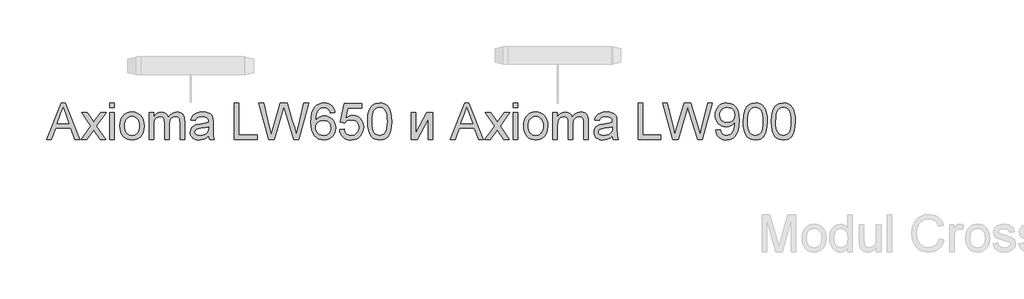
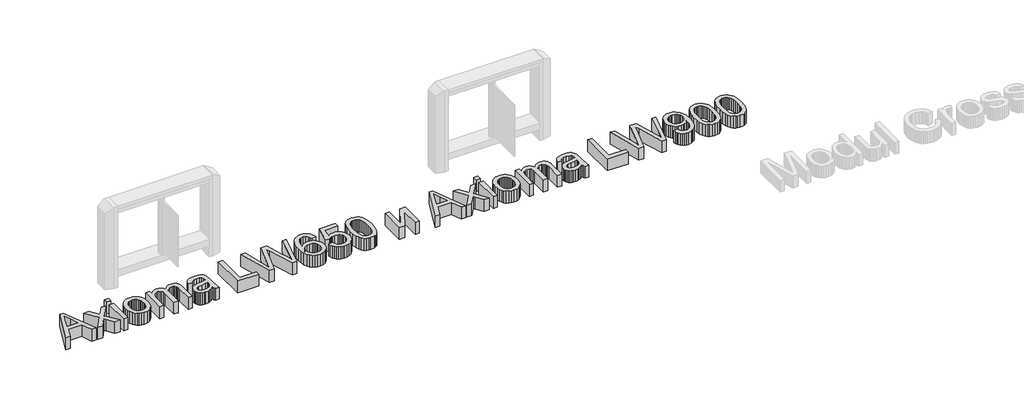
# One storey, part 3 of 6: 1 proxy.
"""IFC4 building model written with IfcOpenShell, lengths in millimetres."""

from ifc_helpers import new_model, si_unit, origin, origin_with_axes, place, context, project, spatial, polyline, outline, extrude, element, save

model = new_model("IFC4")

# Units and contexts
model_context = context("Model", 3, world=origin())
ifc_project = project(units=[si_unit("LENGTHUNIT", "METRE", prefix="MILLI")], contexts=[model_context])

# Site, building, storey
site = spatial("IfcSite", under=ifc_project)
building = spatial("IfcBuilding", under=site)
storey = spatial("IfcBuildingStorey", under=building, Name="Уровень 1", Elevation=0.0)

# Proxy
placement = place(None, origin())
element("IfcBuildingElementProxy", 1, Name="600 мм Arial", ObjectType="600 мм Arial", at=placement, inside=storey, context=model_context, shape_type="SweptSolid", body=[
    extrude(outline(polyline([(-5568.192916, 118.8273835), (-5407.7963661, 520.6526241), (-5365.0239528, 520.6526241), (-5204.6274029, 118.8273835), (-5257.7005121, 118.8273835), (-5303.710287, 244.3977712), (-5469.2081339, 244.3977712), (-5515.1198069, 118.8273835), (-5568.192916, 118.8273835)]), holes=[polyline([(-5450.7649832, 294.6259263), (-5322.0553358, 294.6259263), (-5358.2549241, 393.4145047), (-5386.4101595, 470.4244691), (-5411.4261352, 402.0474689), (-5450.7649832, 294.6259263)])]), origin_with_axes(), (0.0, 0.0, 1.0), 150.0),
    extrude(outline(polyline([(-5188.6367989, 118.8273835), (-5081.3133582, 267.157404), (-5182.3582795, 413.9177946), (-5121.9275304, 413.9177946), (-5073.1709033, 343.2844515), (-5050.4112706, 309.9298173), (-5030.6927956, 337.2021359), (-4975.1671398, 413.9177946), (-4914.7363907, 413.9177946), (-5020.8826091, 267.157404), (-4918.6604654, 118.8273835), (-4979.0912144, 118.8273835), (-5040.601084, 208.0019792), (-5051.8827985, 224.2868888), (-5128.2060498, 118.8273835), (-5188.6367989, 118.8273835)])), origin_with_axes(), (0.0, 0.0, 1.0), 150.0),
    extrude(outline(polyline([(-4874.7108297, 470.4244691), (-4874.7108297, 520.6526241), (-4824.4826746, 520.6526241), (-4824.4826746, 470.4244691), (-4874.7108297, 470.4244691)])), origin_with_axes(), (0.0, 0.0, 1.0), 150.0),
    extrude(outline(polyline([(-4874.7108297, 118.8273835), (-4874.7108297, 413.9177946), (-4824.4826746, 413.9177946), (-4824.4826746, 118.8273835), (-4874.7108297, 118.8273835)])), origin_with_axes(), (0.0, 0.0, 1.0), 150.0),
    extrude(outline(polyline([(-4761.6974807, 266.3725891), (-4758.9812853, 304.589397), (-4750.8326992, 337.5209669), (-4737.2517222, 365.1672989), (-4718.2383544, 387.5283928), (-4699.0962279, 401.8206083), (-4677.9675386, 412.0293337), (-4654.8522866, 418.1545689), (-4629.7504718, 420.196314), (-4602.0397605, 417.7100448), (-4576.983931, 410.2512374), (-4554.5829831, 397.8198916), (-4534.8369171, 380.4160076), (-4518.72062, 358.6281964), (-4507.2089792, 333.0450693), (-4500.3019948, 303.6666263), (-4497.9996666, 270.4928674), (-4502.070894, 219.7496775), (-4514.2845763, 181.122068), (-4534.2850941, 152.1942805), (-4561.7168282, 130.5505564), (-4594.2989102, 117.0492872), (-4629.7504718, 112.5488641), (-4657.8658533, 115.0259362), (-4683.1546748, 122.4571525), (-4705.6169363, 134.8425131), (-4725.2526378, 152.1820178), (-4741.1972566, 174.1813611), (-4752.58627, 200.5462374), (-4759.4196781, 231.2766467), (-4761.6974807, 266.3725891)]), holes=[polyline([(-4711.4693257, 266.4706909), (-4710.0161918, 242.1077058), (-4705.6567901, 221.0127391), (-4698.3911207, 203.1857907), (-4688.2191836, 188.6268607), (-4675.8460858, 177.3175551), (-4661.9769346, 169.2394796), (-4646.6117299, 164.3926343), (-4629.7504718, 162.7770192), (-4612.9750528, 164.4018314), (-4597.6711618, 169.2762678), (-4583.8387988, 177.4003285), (-4571.4779638, 188.7740135), (-4561.3060266, 203.4770306), (-4554.0403572, 221.5890875), (-4549.6809556, 243.1101842), (-4548.2278217, 268.0403208), (-4549.6901526, 291.6307537), (-4554.0771454, 312.1738975), (-4561.3888001, 329.669752), (-4571.6251166, 344.1183174), (-4584.0319369, 355.427623), (-4597.8551028, 363.5056985), (-4613.0946145, 368.3525438), (-4629.7504718, 369.9681589), (-4646.6117299, 368.3586752), (-4661.9769346, 363.530224), (-4675.8460858, 355.4828053), (-4688.2191836, 344.2164192), (-4698.3911207, 329.7004088), (-4705.6567901, 311.9041173), (-4710.0161918, 290.8275447), (-4711.4693257, 266.4706909)])]), origin_with_axes(), (0.0, 0.0, 1.0), 150.0),
    extrude(outline(polyline([(-4441.4929921, 118.8273835), (-4441.4929921, 413.9177946), (-4391.2648371, 413.9177946), (-4391.2648371, 365.3573712), (-4376.1571498, 387.6632829), (-4356.7329805, 405.1376776), (-4333.6545166, 416.4316549), (-4307.5839459, 420.196314), (-4279.6494397, 416.3580785), (-4257.257689, 404.843372), (-4240.5313209, 386.4124841), (-4229.5929629, 361.8257041), (-4211.2847023, 387.3628459), (-4190.4012677, 405.6036615), (-4166.9426591, 416.5481509), (-4140.9088766, 420.196314), (-4120.8010599, 418.6788007), (-4103.1519212, 414.1262611), (-4087.9614605, 406.5386949), (-4075.2296777, 395.9161023), (-4065.1650395, 382.1358559), (-4057.9760122, 365.0753284), (-4053.6625958, 344.7345197), (-4052.2247903, 321.1134299), (-4052.2247903, 118.8273835), (-4102.4529454, 118.8273835), (-4102.4529454, 299.5310196), (-4103.617905, 324.5837834), (-4107.112784, 341.469567), (-4113.6610835, 353.0333244), (-4123.9863048, 362.1200097), (-4137.2668449, 368.0061216), (-4152.6811005, 369.9681589), (-4179.8921054, 364.9404383), (-4202.0753897, 349.8572765), (-4210.6807627, 338.2873878), (-4216.8274577, 323.6886039), (-4221.7448137, 285.4043509), (-4221.7448137, 118.8273835), (-4271.9729688, 118.8273835), (-4271.9729688, 305.1228259), (-4274.8792365, 333.5233159), (-4283.5980398, 353.7813511), (-4298.938719, 365.921457), (-4321.7106145, 369.9681589), (-4341.0612075, 367.2703576), (-4358.8912215, 359.1769537), (-4373.6065013, 345.884151), (-4383.6128916, 327.5881531), (-4389.3518507, 302.2042954), (-4391.2648371, 267.6479133), (-4391.2648371, 118.8273835), (-4441.4929921, 118.8273835)])), origin_with_axes(), (0.0, 0.0, 1.0), 150.0),
    extrude(outline(polyline([(-3788.5269762, 156.4984998), (-3812.525145, 135.9216336), (-3837.2345523, 122.4571525), (-3863.2192839, 115.0259362), (-3891.0434255, 112.5488641), (-3913.4075851, 114.0387862), (-3933.0187611, 118.5085525), (-3949.8769536, 125.9581629), (-3963.9821624, 136.3876174), (-3975.1197898, 149.1347286), (-3983.075238, 163.5373087), (-3987.8485068, 179.5953578), (-3989.4395965, 197.3088758), (-3987.0361008, 218.1309968), (-3979.8256137, 237.0401313), (-3968.7033147, 253.2269391), (-3954.5643833, 265.8820797), (-3937.9483799, 275.4470116), (-3919.3948646, 282.3631931), (-3875.9357382, 289.9170368), (-3824.5794117, 297.8632878), (-3788.8212818, 307.1829651), (-3788.5269762, 318.3665777), (-3791.9850669, 340.782854), (-3802.3593392, 355.4490828), (-3825.5604304, 366.3383899), (-3857.884995, 369.9681589), (-3887.8060639, 367.5524005), (-3908.7017613, 360.3051252), (-3922.9510572, 346.9019578), (-3932.932922, 326.0185232), (-3983.1610771, 332.2970426), (-3974.4422738, 359.7655649), (-3961.4315139, 381.3479753), (-3942.9147868, 397.8536141), (-3917.6780819, 410.0918218), (-3886.8127825, 417.6701909), (-3851.4102719, 420.196314), (-3817.4547637, 417.9644965), (-3790.5380644, 411.2690442), (-3770.243241, 401.2013403), (-3756.1533606, 388.852768), (-3746.8091579, 373.5856652), (-3740.7513677, 354.7623698), (-3738.2988211, 310.8127341), (-3738.2988211, 248.3218458), (-3735.7481726, 161.0602366), (-3725.7417823, 118.8273835), (-3775.9699374, 118.8273835), (-3784.0142904, 136.2895156), (-3788.5269762, 156.4984998)]), holes=[polyline([(-3788.5269762, 256.95481), (-3822.2740179, 248.591626), (-3869.559117, 241.5528171), (-3912.7729887, 233.4103623), (-3924.017915, 227.8430814), (-3932.3443108, 220.1666105), (-3937.4946587, 210.9695606), (-3939.2114414, 200.840543), (-3935.4713078, 185.904534), (-3924.2509069, 173.6663263), (-3905.7954935, 165.499346), (-3880.3503222, 162.7770192), (-3853.3723092, 165.7813888), (-3829.5335559, 174.7944977), (-3810.2074884, 188.0750378), (-3796.7675329, 203.8817008), (-3790.8078445, 220.1666105), (-3788.8212818, 242.7300395), (-3788.5269762, 256.95481)])]), origin_with_axes(), (0.0, 0.0, 1.0), 150.0),
    extrude(outline(polyline([(-3505.9936039, 118.8273835), (-3505.9936039, 520.6526241), (-3455.7654488, 520.6526241), (-3455.7654488, 169.0555386), (-3254.8528285, 169.0555386), (-3254.8528285, 118.8273835), (-3505.9936039, 118.8273835)])), origin_with_axes(), (0.0, 0.0, 1.0), 150.0),
    extrude(outline(polyline([(-3126.4374867, 118.8273835), (-3236.0172703, 520.6526241), (-3184.2194854, 520.6526241), (-3120.6494767, 256.5624025), (-3101.0291036, 175.0397524), (-3080.0353044, 247.1446234), (-3000.3765897, 520.6526241), (-2925.7210701, 520.6526241), (-2867.8409696, 322.3887542), (-2843.0457231, 248.8123552), (-2824.7742507, 175.0397524), (-2805.7424888, 254.2079578), (-2741.5838688, 520.6526241), (-2689.7860839, 520.6526241), (-2799.4639694, 118.8273835), (-2853.1256898, 118.8273835), (-2949.4617216, 428.8292781), (-2962.9016771, 472.0922008), (-2978.0093644, 420.0001102), (-3065.8105339, 118.8273835), (-3126.4374867, 118.8273835)])), origin_with_axes(), (0.0, 0.0, 1.0), 150.0),
    extrude(outline(polyline([(-2400.9741922, 413.9177946), (-2451.2023473, 407.6392752), (-2459.2957512, 432.5326235), (-2470.2341092, 449.5287717), (-2493.0182674, 465.2005447), (-2520.5603661, 470.4244691), (-2543.9086101, 467.3833112), (-2565.8834279, 458.2598377), (-2584.7557743, 439.0441349), (-2600.1700299, 412.5934194), (-2610.5810903, 375.1798205), (-2614.4438513, 323.0754673), (-2594.2961807, 346.5831267), (-2570.1508591, 363.1500793), (-2543.3567871, 372.9725285), (-2515.2628654, 376.2466783), (-2491.1298065, 374.0087295), (-2468.8606831, 367.2948831), (-2448.4554951, 356.1051391), (-2429.9142425, 340.4394974), (-2414.5061183, 321.2299259), (-2403.5003153, 299.4083922), (-2396.8968334, 274.9748964), (-2394.6956728, 247.9294384), (-2398.8404767, 211.962842), (-2411.2748881, 178.6204705), (-2430.9688376, 150.3426078), (-2456.8922555, 129.5695378), (-2487.8679195, 116.8040326), (-2522.7186072, 112.5488641), (-2552.6611359, 115.3692928), (-2579.7035282, 123.8305787), (-2603.8457842, 137.9327218), (-2625.0879037, 157.6757222), (-2642.4059486, 183.8934457), (-2654.7759807, 217.4197582), (-2662.198, 258.2546597), (-2664.6720064, 306.3981501), (-2661.9251541, 360.3725702), (-2653.6845974, 406.4375274), (-2639.9503363, 444.5930216), (-2620.7223707, 474.839053), (-2599.8818557, 494.8824904), (-2575.7181399, 509.1992313), (-2548.2312235, 517.7892759), (-2517.4211064, 520.6526241), (-2494.2874603, 518.8806592), (-2473.3488434, 513.5647644), (-2454.6052558, 504.7049396), (-2438.0566973, 492.301185), (-2424.1507579, 476.7704335), (-2413.3350273, 458.5296179), (-2405.6095054, 437.5787383), (-2400.9741922, 413.9177946)]), holes=[polyline([(-2614.4438513, 248.7142533), (-2611.5375835, 226.4573926), (-2602.8187802, 205.206076), (-2589.2807228, 186.9346036), (-2571.9166927, 173.6172753), (-2550.9596817, 165.4870833), (-2526.6426818, 162.7770192), (-2493.496514, 168.393351), (-2479.5813775, 175.4137658), (-2467.438206, 185.2423464), (-2457.5881656, 197.4805541), (-2450.5524224, 211.72985), (-2444.9238279, 246.2617067), (-2450.478846, 279.4078744), (-2457.4226187, 293.0287053), (-2467.1439004, 304.6813675), (-2479.3238602, 314.0163731), (-2493.6436668, 320.6842343), (-2528.702821, 326.0185232), (-2561.7999378, 320.6842343), (-2589.4769266, 304.6813675), (-2600.3999561, 293.1819895), (-2608.2021201, 280.0210111), (-2612.8834185, 265.1984324), (-2614.4438513, 248.7142533)])]), origin_with_axes(), (0.0, 0.0, 1.0), 150.0),
    extrude(outline(polyline([(-2350.7460372, 225.5622131), (-2300.5178821, 231.8407324), (-2291.2963067, 201.6866716), (-2275.2076008, 180.0919985), (-2252.3253407, 167.105764), (-2222.7231028, 162.7770192), (-2203.5932391, 164.2822697), (-2186.7197182, 168.7980212), (-2172.1025403, 176.3242737), (-2159.7417053, 186.8610272), (-2149.9131246, 199.8871155), (-2142.8927099, 214.8813725), (-2137.2763781, 250.7743925), (-2142.5370906, 284.5704851), (-2149.1129813, 298.4886872), (-2158.3192282, 310.4203266), (-2170.1864882, 319.9913899), (-2184.7454182, 326.8278636), (-2221.9382879, 332.2970426), (-2246.3043387, 330.1142761), (-2266.0350764, 323.5659766), (-2281.7926885, 313.5350608), (-2294.2393627, 300.9044457), (-2344.4675178, 307.1829651), (-2300.5178821, 514.3741047), (-2105.8837812, 514.3741047), (-2105.8837812, 464.1459497), (-2259.9037098, 464.1459497), (-2281.3880183, 353.4870455), (-2263.6622375, 366.1912371), (-2245.5072611, 375.2656596), (-2226.9230889, 380.7103132), (-2207.9097212, 382.5251977), (-2183.4486342, 380.2749861), (-2160.9802413, 373.5243515), (-2140.5045426, 362.2732938), (-2122.021538, 346.5218131), (-2106.7207127, 327.2325338), (-2095.7915518, 305.3680806), (-2089.2340552, 280.9284533), (-2087.048223, 253.9136522), (-2089.0163917, 227.8921324), (-2094.9208977, 203.6854971), (-2104.7617411, 181.2937463), (-2118.5389218, 160.71688), (-2139.4100937, 139.6433731), (-2163.7638817, 124.5908681), (-2191.600286, 115.5593651), (-2222.9193066, 112.5488641), (-2248.8396588, 114.4833103), (-2272.2522821, 120.2866488), (-2293.1571765, 129.9588796), (-2311.5543419, 143.5000027), (-2326.8612986, 160.2355678), (-2338.4955667, 179.4911245), (-2346.4571462, 201.266673), (-2350.7460372, 225.5622131)])), origin_with_axes(), (0.0, 0.0, 1.0), 150.0),
    extrude(outline(polyline([(-2043.0985873, 316.5026423), (-2039.4075046, 380.8206778), (-2028.3342566, 432.1156906), (-2009.9892078, 471.1724958), (-1998.1311448, 486.4058761), (-1984.4827228, 498.7759081), (-1968.9979564, 508.3469714), (-1951.6308606, 515.1834451), (-1911.2496802, 520.6526241), (-1880.2985417, 517.4152626), (-1852.5847648, 507.7031779), (-1829.4081991, 491.8965148), (-1812.0686943, 470.3754181), (-1798.9720953, 443.3238287), (-1788.5242467, 410.9256877), (-1781.6816415, 369.7842179), (-1779.4007732, 316.5026423), (-1783.0550677, 252.5524888), (-1794.0179511, 201.3801032), (-1812.2526353, 162.2865099), (-1824.0831072, 147.0071444), (-1837.7223321, 134.5727329), (-1853.2254926, 124.9372903), (-1870.6477707, 118.0548313), (-1911.2496802, 112.5488641), (-1938.9144063, 114.9400971), (-1963.4398726, 122.113796), (-1984.8260793, 134.0699609), (-2003.0730262, 150.8085916), (-2020.5842092, 181.0668857), (-2033.0921971, 218.7686589), (-2040.5969898, 263.9139111), (-2043.0985873, 316.5026423)]), holes=[polyline([(-1992.8704322, 316.6007441), (-1991.3989043, 272.936217), (-1986.9843203, 237.5919543), (-1979.6266804, 210.5679561), (-1969.3259846, 191.8642223), (-1956.8670477, 179.138571), (-1943.0346846, 170.04882), (-1927.8288955, 164.5949694), (-1911.2496802, 162.7770192), (-1894.670465, 164.6011008), (-1879.4646759, 170.0733455), (-1865.6323128, 179.1937533), (-1853.1733759, 191.9623242), (-1842.8726801, 210.6967148), (-1835.5150402, 237.7145816), (-1831.1004562, 273.0159248), (-1829.6289283, 316.6007441), (-1831.0514053, 359.1095087), (-1835.3188364, 393.8314377), (-1842.4312217, 420.7665311), (-1852.388561, 439.9147889), (-1864.6390315, 453.262774), (-1878.63081, 462.797049), (-1894.3638967, 468.517614), (-1911.8382914, 470.4244691), (-1928.3316676, 468.7444746), (-1943.2799393, 463.7044913), (-1956.6831067, 455.3045191), (-1968.5411696, 443.5445579), (-1979.185222, 422.6979115), (-1986.7881166, 394.5917271), (-1991.3498533, 359.2260046), (-1992.8704322, 316.6007441)])]), origin_with_axes(), (0.0, 0.0, 1.0), 150.0),
    extrude(outline(polyline([(-1565.9311141, 413.9177946), (-1515.702959, 413.9177946), (-1515.702959, 188.8721154), (-1392.2908124, 413.9177946), (-1327.3473775, 413.9177946), (-1327.3473775, 118.8273835), (-1377.5755326, 118.8273835), (-1377.5755326, 342.4996366), (-1500.2028643, 118.8273835), (-1565.9311141, 118.8273835), (-1565.9311141, 413.9177946)])), origin_with_axes(), (0.0, 0.0, 1.0), 150.0),
    extrude(outline(polyline([(-1135.5582307, 118.8273835), (-975.1616808, 520.6526241), (-932.3892675, 520.6526241), (-771.9927176, 118.8273835), (-825.0658268, 118.8273835), (-871.0756016, 244.3977712), (-1036.5734485, 244.3977712), (-1082.4851215, 118.8273835), (-1135.5582307, 118.8273835)]), holes=[polyline([(-1018.1302978, 294.6259263), (-889.4206504, 294.6259263), (-925.6202388, 393.4145047), (-953.7754741, 470.4244691), (-978.7914498, 402.0474689), (-1018.1302978, 294.6259263)])]), origin_with_axes(), (0.0, 0.0, 1.0), 150.0),
    extrude(outline(polyline([(-756.0021135, 118.8273835), (-648.6786728, 267.157404), (-749.7235941, 413.9177946), (-689.2928451, 413.9177946), (-640.536218, 343.2844515), (-617.7765852, 309.9298173), (-598.0581103, 337.2021359), (-542.5324545, 413.9177946), (-482.1017054, 413.9177946), (-588.2479237, 267.157404), (-486.02578, 118.8273835), (-546.4565291, 118.8273835), (-607.9663987, 208.0019792), (-619.2481132, 224.2868888), (-695.5713645, 118.8273835), (-756.0021135, 118.8273835)])), origin_with_axes(), (0.0, 0.0, 1.0), 150.0),
    extrude(outline(polyline([(-442.0761443, 470.4244691), (-442.0761443, 520.6526241), (-391.8479892, 520.6526241), (-391.8479892, 470.4244691), (-442.0761443, 470.4244691)])), origin_with_axes(), (0.0, 0.0, 1.0), 150.0),
    extrude(outline(polyline([(-442.0761443, 118.8273835), (-442.0761443, 413.9177946), (-391.8479892, 413.9177946), (-391.8479892, 118.8273835), (-442.0761443, 118.8273835)])), origin_with_axes(), (0.0, 0.0, 1.0), 150.0),
    extrude(outline(polyline([(-329.0627954, 266.3725891), (-326.3466, 304.589397), (-318.1980138, 337.5209669), (-304.6170368, 365.1672989), (-285.603669, 387.5283928), (-266.4615425, 401.8206083), (-245.3328533, 412.0293337), (-222.2176013, 418.1545689), (-197.1157865, 420.196314), (-169.4050752, 417.7100448), (-144.3492456, 410.2512374), (-121.9482978, 397.8198916), (-102.2022317, 380.4160076), (-86.0859346, 358.6281964), (-74.5742939, 333.0450693), (-67.6673094, 303.6666263), (-65.3649812, 270.4928674), (-69.4362087, 219.7496775), (-81.6498909, 181.122068), (-101.6504087, 152.1942805), (-129.0821428, 130.5505564), (-161.6642249, 117.0492872), (-197.1157865, 112.5488641), (-225.2311679, 115.0259362), (-250.5199894, 122.4571525), (-272.9822509, 134.8425131), (-292.6179524, 152.1820178), (-308.5625712, 174.1813611), (-319.9515846, 200.5462374), (-326.7849927, 231.2766467), (-329.0627954, 266.3725891)]), holes=[polyline([(-278.8346403, 266.4706909), (-277.3815064, 242.1077058), (-273.0221048, 221.0127391), (-265.7564354, 203.1857907), (-255.5844982, 188.6268607), (-243.2114005, 177.3175551), (-229.3422492, 169.2394796), (-213.9770446, 164.3926343), (-197.1157865, 162.7770192), (-180.3403675, 164.4018314), (-165.0364765, 169.2762678), (-151.2041135, 177.4003285), (-138.8432784, 188.7740135), (-128.6713413, 203.4770306), (-121.4056718, 221.5890875), (-117.0462702, 243.1101842), (-115.5931363, 268.0403208), (-117.0554673, 291.6307537), (-121.44246, 312.1738975), (-128.7541147, 329.669752), (-138.9904312, 344.1183174), (-151.3972515, 355.427623), (-165.2204175, 363.5056985), (-180.4599291, 368.3525438), (-197.1157865, 369.9681589), (-213.9770446, 368.3586752), (-229.3422492, 363.530224), (-243.2114005, 355.4828053), (-255.5844982, 344.2164192), (-265.7564354, 329.7004088), (-273.0221048, 311.9041173), (-277.3815064, 290.8275447), (-278.8346403, 266.4706909)])]), origin_with_axes(), (0.0, 0.0, 1.0), 150.0),
    extrude(outline(polyline([(-8.8583068, 118.8273835), (-8.8583068, 413.9177946), (41.3698483, 413.9177946), (41.3698483, 365.3573712), (56.4775356, 387.6632829), (75.9017049, 405.1376776), (98.9801687, 416.4316549), (125.0507395, 420.196314), (152.9852456, 416.3580785), (175.3769964, 404.843372), (192.1033644, 386.4124841), (203.0417224, 361.8257041), (221.3499831, 387.3628459), (242.2334177, 405.6036615), (265.6920262, 416.5481509), (291.7258087, 420.196314), (311.8336255, 418.6788007), (329.4827642, 414.1262611), (344.6732249, 406.5386949), (357.4050076, 395.9161023), (367.4696459, 382.1358559), (374.6586732, 365.0753284), (378.9720896, 344.7345197), (380.409895, 321.1134299), (380.409895, 118.8273835), (330.18174, 118.8273835), (330.18174, 299.5310196), (329.0167803, 324.5837834), (325.5219014, 341.469567), (318.9736018, 353.0333244), (308.6483805, 362.1200097), (295.3678405, 368.0061216), (279.9535849, 369.9681589), (252.74258, 364.9404383), (230.5592957, 349.8572765), (221.9539227, 338.2873878), (215.8072277, 323.6886039), (210.8898717, 285.4043509), (210.8898717, 118.8273835), (160.6617166, 118.8273835), (160.6617166, 305.1228259), (157.7554488, 333.5233159), (149.0366455, 353.7813511), (133.6959663, 365.921457), (110.9240708, 369.9681589), (91.5734779, 367.2703576), (73.7434639, 359.1769537), (59.0281841, 345.884151), (49.0217938, 327.5881531), (43.2828347, 302.2042954), (41.3698483, 267.6479133), (41.3698483, 118.8273835), (-8.8583068, 118.8273835)])), origin_with_axes(), (0.0, 0.0, 1.0), 150.0),
    extrude(outline(polyline([(644.1077092, 156.4984998), (620.1095404, 135.9216336), (595.400133, 122.4571525), (569.4154014, 115.0259362), (541.5912599, 112.5488641), (519.2271002, 114.0387862), (499.6159242, 118.5085525), (482.7577318, 125.9581629), (468.6525229, 136.3876174), (457.5148955, 149.1347286), (449.5594474, 163.5373087), (444.7861785, 179.5953578), (443.1950889, 197.3088758), (445.5985846, 218.1309968), (452.8090717, 237.0401313), (463.9313707, 253.2269391), (478.070302, 265.8820797), (494.6863055, 275.4470116), (513.2398208, 282.3631931), (556.6989471, 289.9170368), (608.0552737, 297.8632878), (643.8134036, 307.1829651), (644.1077092, 318.3665777), (640.6496184, 340.782854), (630.2753462, 355.4490828), (607.074255, 366.3383899), (574.7496904, 369.9681589), (544.8286214, 367.5524005), (523.9329241, 360.3051252), (509.6836281, 346.9019578), (499.7017633, 326.0185232), (449.4736083, 332.2970426), (458.1924116, 359.7655649), (471.2031714, 381.3479753), (489.7198985, 397.8536141), (514.9566034, 410.0918218), (545.8219028, 417.6701909), (581.2244135, 420.196314), (615.1799216, 417.9644965), (642.0966209, 411.2690442), (662.3914443, 401.2013403), (676.4813248, 388.852768), (685.8255274, 373.5856652), (691.8833176, 354.7623698), (694.3358643, 310.8127341), (694.3358643, 248.3218458), (696.8865128, 161.0602366), (706.892903, 118.8273835), (656.664748, 118.8273835), (648.620395, 136.2895156), (644.1077092, 156.4984998)]), holes=[polyline([(644.1077092, 256.95481), (610.3606675, 248.591626), (563.0755684, 241.5528171), (519.8616967, 233.4103623), (508.6167704, 227.8430814), (500.2903745, 220.1666105), (495.1400266, 210.9695606), (493.423244, 200.840543), (497.1633776, 185.904534), (508.3837784, 173.6663263), (526.8391919, 165.499346), (552.2843632, 162.7770192), (579.2623762, 165.7813888), (603.1011295, 174.7944977), (622.4271969, 188.0750378), (635.8671525, 203.8817008), (641.8268408, 220.1666105), (643.8134036, 242.7300395), (644.1077092, 256.95481)])]), origin_with_axes(), (0.0, 0.0, 1.0), 150.0),
    extrude(outline(polyline([(926.6410815, 118.8273835), (926.6410815, 520.6526241), (976.8692366, 520.6526241), (976.8692366, 169.0555386), (1177.7818569, 169.0555386), (1177.7818569, 118.8273835), (926.6410815, 118.8273835)])), origin_with_axes(), (0.0, 0.0, 1.0), 150.0),
    extrude(outline(polyline([(1306.1971986, 118.8273835), (1196.617415, 520.6526241), (1248.4151999, 520.6526241), (1311.9852087, 256.5624025), (1331.6055818, 175.0397524), (1352.599381, 247.1446234), (1432.2580956, 520.6526241), (1506.9136152, 520.6526241), (1564.7937158, 322.3887542), (1589.5889623, 248.8123552), (1607.8604347, 175.0397524), (1626.8921966, 254.2079578), (1691.0508165, 520.6526241), (1742.8486014, 520.6526241), (1633.1707159, 118.8273835), (1579.5089956, 118.8273835), (1483.1729638, 428.8292781), (1469.7330082, 472.0922008), (1454.625321, 420.0001102), (1366.8241514, 118.8273835), (1306.1971986, 118.8273835)])), origin_with_axes(), (0.0, 0.0, 1.0), 150.0),
    extrude(outline(polyline([(1780.5197177, 219.2836937), (1830.7478728, 225.5622131), (1839.331786, 197.0513584), (1853.3113019, 177.6394518), (1872.3430637, 166.4926274), (1896.0837152, 162.7770192), (1917.3840827, 165.1682522), (1936.7469384, 172.3419511), (1952.8356443, 183.513301), (1964.3135625, 197.897487), (1980.745625, 241.5528171), (1986.1902785, 269.9533071), (1988.005163, 299.8253252), (1987.7108574, 309.6355117), (1970.3100391, 288.3964578), (1947.5381436, 271.5719879), (1921.0383772, 260.6091045), (1892.4539461, 256.95481), (1868.5937331, 259.1866274), (1846.6526377, 265.8820797), (1826.6306602, 277.0411669), (1808.5278003, 292.663889), (1793.527412, 311.9347742), (1782.8128489, 334.0383507), (1776.384111, 358.9746186), (1774.2411984, 386.7435779), (1776.4883442, 415.4383735), (1783.2297818, 441.1901132), (1794.4655111, 463.9987969), (1810.195532, 483.8644246), (1829.3100674, 499.9592619), (1850.6993397, 511.4555742), (1874.363349, 518.3533617), (1900.3020954, 520.6526241), (1937.7647452, 515.4041743), (1971.8674062, 499.6588249), (2000.3905235, 474.2013909), (2021.1145426, 439.8166871), (2033.732895, 392.2863333), (2037.9390125, 327.3919493), (2033.7451578, 258.5857535), (2021.1635935, 205.4022797), (2000.3046844, 165.4380323), (1986.8126122, 149.5118076), (1971.278795, 136.2895156), (1954.0159324, 125.9029806), (1935.3367241, 118.484027), (1893.7292704, 112.5488641), (1871.1719727, 114.2993693), (1850.7851788, 119.5508848), (1832.5688887, 128.3034106), (1816.5231023, 140.5569467), (1803.05249, 155.9803994), (1792.5617217, 174.2426747), (1785.0507977, 195.3437728), (1780.5197177, 219.2836937)]), holes=[polyline([(1987.7108574, 387.9208003), (1982.2907294, 421.9621476), (1975.5155693, 436.0397652), (1966.0303452, 448.1553456), (1954.3010409, 457.8980871), (1940.7936403, 464.8571882), (1908.4445502, 470.4244691), (1890.8352654, 468.9253499), (1874.8937122, 464.4279925), (1860.6198908, 456.9323969), (1848.0138011, 446.438563), (1837.7131053, 433.5596275), (1830.3554654, 418.908727), (1825.9408814, 402.4858616), (1824.4693534, 384.2910312), (1830.0366343, 353.2540536), (1836.9957354, 340.1359948), (1846.7384769, 328.6182226), (1858.8601886, 319.2402975), (1872.9562004, 312.5417795), (1907.0711241, 307.1829651), (1939.1626968, 312.5417795), (1965.0002756, 328.6182226), (1974.9361552, 340.3628553), (1982.033212, 354.1614958), (1987.7108574, 387.9208003)])]), origin_with_axes(), (0.0, 0.0, 1.0), 150.0),
    extrude(outline(polyline([(2081.8886482, 316.5026423), (2085.5797309, 380.8206778), (2096.6529789, 432.1156906), (2114.9980278, 471.1724958), (2126.8560907, 486.4058761), (2140.5045128, 498.7759081), (2155.9892791, 508.3469714), (2173.3563749, 515.1834451), (2213.7375553, 520.6526241), (2244.6886938, 517.4152626), (2272.4024708, 507.7031779), (2295.5790365, 491.8965148), (2312.9185412, 470.3754181), (2326.0151402, 443.3238287), (2336.4629889, 410.9256877), (2343.305594, 369.7842179), (2345.5864623, 316.5026423), (2341.9321679, 252.5524888), (2330.9692844, 201.3801032), (2312.7346002, 162.2865099), (2300.9041283, 147.0071444), (2287.2649034, 134.5727329), (2271.761743, 124.9372903), (2254.3394648, 118.0548313), (2213.7375553, 112.5488641), (2186.0728292, 114.9400971), (2161.5473629, 122.113796), (2140.1611562, 134.0699609), (2121.9142093, 150.8085916), (2104.4030263, 181.0668857), (2091.8950385, 218.7686589), (2084.3902458, 263.9139111), (2081.8886482, 316.5026423)]), holes=[polyline([(2132.1168033, 316.6007441), (2133.5883313, 272.936217), (2138.0029152, 237.5919543), (2145.3605551, 210.5679561), (2155.661251, 191.8642223), (2168.1201879, 179.138571), (2181.9525509, 170.04882), (2197.15834, 164.5949694), (2213.7375553, 162.7770192), (2230.3167705, 164.6011008), (2245.5225597, 170.0733455), (2259.3549227, 179.1937533), (2271.8138596, 191.9623242), (2282.1145554, 210.6967148), (2289.4721953, 237.7145816), (2293.8867793, 273.0159248), (2295.3583073, 316.6007441), (2293.9358302, 359.1095087), (2289.6683991, 393.8314377), (2282.5560138, 420.7665311), (2272.5986745, 439.9147889), (2260.3482041, 453.262774), (2246.3564255, 462.797049), (2230.6233388, 468.517614), (2213.1489441, 470.4244691), (2196.655568, 468.7444746), (2181.7072962, 463.7044913), (2168.3041289, 455.3045191), (2156.4460659, 443.5445579), (2145.8020135, 422.6979115), (2138.1991189, 394.5917271), (2133.6373822, 359.2260046), (2132.1168033, 316.6007441)])]), origin_with_axes(), (0.0, 0.0, 1.0), 150.0),
    extrude(outline(polyline([(2389.536098, 316.5026423), (2393.2271807, 380.8206778), (2404.3004288, 432.1156906), (2422.6454776, 471.1724958), (2434.5035406, 486.4058761), (2448.1519626, 498.7759081), (2463.6367289, 508.3469714), (2481.0038248, 515.1834451), (2521.3850051, 520.6526241), (2552.3361436, 517.4152626), (2580.0499206, 507.7031779), (2603.2264863, 491.8965148), (2620.565991, 470.3754181), (2633.66259, 443.3238287), (2644.1104387, 410.9256877), (2650.9530438, 369.7842179), (2653.2339122, 316.5026423), (2649.5796177, 252.5524888), (2638.6167342, 201.3801032), (2620.38205, 162.2865099), (2608.5515782, 147.0071444), (2594.9123532, 134.5727329), (2579.4091928, 124.9372903), (2561.9869146, 118.0548313), (2521.3850051, 112.5488641), (2493.7202791, 114.9400971), (2469.1948127, 122.113796), (2447.8086061, 134.0699609), (2429.5616591, 150.8085916), (2412.0504761, 181.0668857), (2399.5424883, 218.7686589), (2392.0376956, 263.9139111), (2389.536098, 316.5026423)]), holes=[polyline([(2439.7642531, 316.6007441), (2441.2357811, 272.936217), (2445.650365, 237.5919543), (2453.0080049, 210.5679561), (2463.3087008, 191.8642223), (2475.7676377, 179.138571), (2489.6000007, 170.04882), (2504.8057899, 164.5949694), (2521.3850051, 162.7770192), (2537.9642204, 164.6011008), (2553.1700095, 170.0733455), (2567.0023725, 179.1937533), (2579.4613094, 191.9623242), (2589.7620053, 210.6967148), (2597.1196452, 237.7145816), (2601.5342291, 273.0159248), (2603.0057571, 316.6007441), (2601.5832801, 359.1095087), (2597.3158489, 393.8314377), (2590.2034637, 420.7665311), (2580.2461243, 439.9147889), (2567.9956539, 453.262774), (2554.0038753, 462.797049), (2538.2707887, 468.517614), (2520.7963939, 470.4244691), (2504.3030178, 468.7444746), (2489.3547461, 463.7044913), (2475.9515787, 455.3045191), (2464.0935157, 443.5445579), (2453.4494633, 422.6979115), (2445.8465688, 394.5917271), (2441.284832, 359.2260046), (2439.7642531, 316.6007441)])]), origin_with_axes(), (0.0, 0.0, 1.0), 150.0),
])

save(model, "model.ifc")
